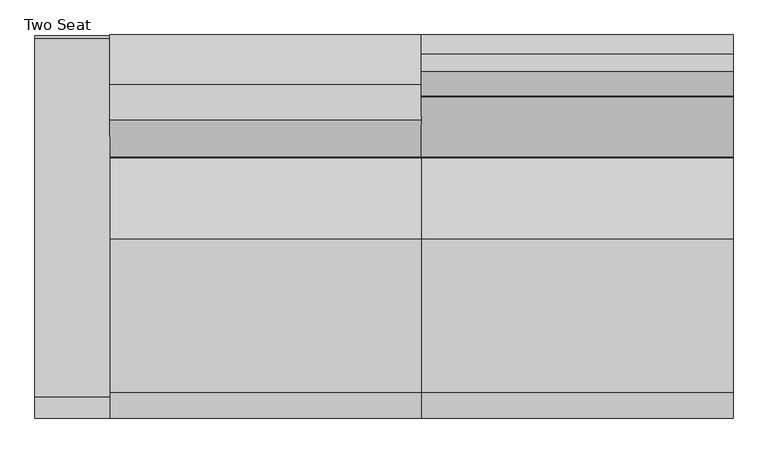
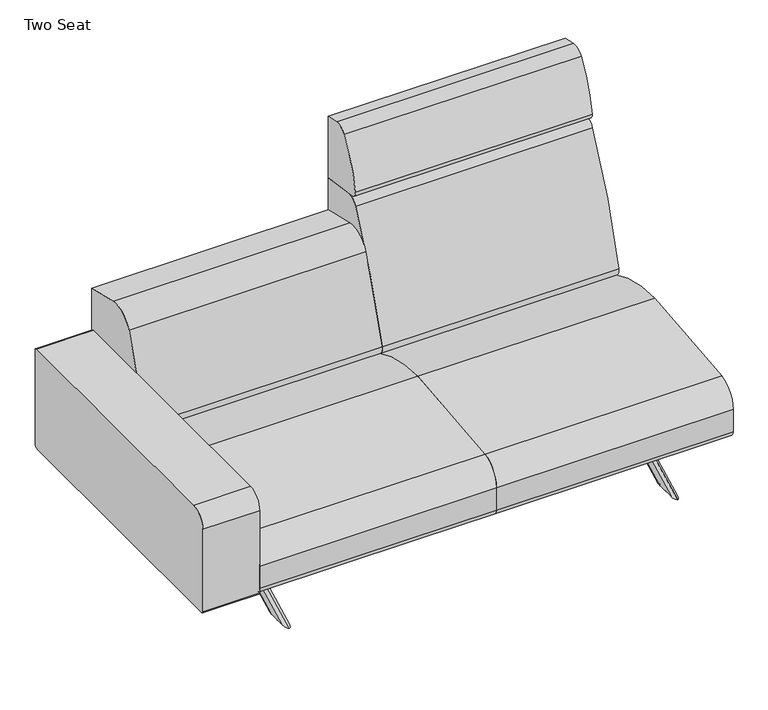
"""IFC4 building model written with IfcOpenShell, lengths in millimetres: furniture geometry, Coalesse_AM_Seating_LoungeChair_Sistema_LegBase_TwoSeat : Two Seat."""

from ifc_helpers import new_model, si_unit, point, frame, frame_2d, origin, origin_with_axes, place, context, project, spatial, polyline, circle_curve, ellipse_curve, trimmed, segment, composite_curve, outline, extrude, source, transform, mapped, element, save
from ifc_brep_helpers import plane_surface, cylinder_surface, advanced_brep


def two_seat_acb1e659(model_context):
    return source(origin(), model_context, "Body", "SolidModel", [
        extrude(outline(composite_curve([segment(trimmed(circle_curve(frame_2d((201.422, 966.5259944)), 3.048), [point((204.47, 966.5259944))], [point((201.422, 963.4779944))], False, "CARTESIAN"), True, "CONTINUOUS"), segment(polyline([(201.422, 963.4779944), (157.0399209, 963.4779944)]), True, "CONTINUOUS"), segment(trimmed(circle_curve(frame_2d((157.0399209, 966.5259944)), 3.048), [point((157.0399209, 963.4779944))], [point((153.9919209, 966.5259944))], False, "CARTESIAN"), True, "CONTINUOUS"), segment(polyline([(153.9919209, 966.5259944), (153.9919209, 1011.2135501)]), True, "CONTINUOUS"), segment(trimmed(circle_curve(frame_2d((157.056462, 1011.2135501)), 3.0645412), [point((153.9919209, 1011.2135501))], [point((157.056462, 1014.2780913))], False, "CARTESIAN"), True, "CONTINUOUS"), segment(polyline([(157.056462, 1014.2780913), (201.422, 1014.2780913)]), True, "CONTINUOUS"), segment(trimmed(circle_curve(frame_2d((201.422, 1011.2300913)), 3.048), [point((201.422, 1014.2780913))], [point((204.47, 1011.2300913))], False, "CARTESIAN"), True, "CONTINUOUS"), segment(polyline([(204.47, 1011.2300913), (204.47, 966.5259944)]), True, "CONTINUOUS")], self_intersect=False)), frame((0.0, -222.3519802, 0.0), z_axis=(0.0, 1.0, 0.0), x_axis=(0.0, 0.0, 1.0)), (0.0, 0.0, 1.0), 444.7039604),
        extrude(outline(composite_curve([segment(trimmed(circle_curve(frame_2d((989.1765227, 335.9943389)), 6.096), [point((995.2725227, 335.9943389))], [point((983.0805227, 335.9943389))], False, "CARTESIAN"), True, "CONTINUOUS"), segment(trimmed(circle_curve(frame_2d((989.1765227, 335.9943389)), 6.096), [point((983.0805227, 335.9943389))], [point((995.2725227, 335.9943389))], False, "CARTESIAN"), True, "CONTINUOUS")], self_intersect=False)), origin_with_axes(), (0.0, 0.0, 1.0), 4.3662291),
        extrude(outline(composite_curve([segment(trimmed(circle_curve(frame_2d((989.1765227, 303.6385124)), 6.096), [point((995.2725227, 303.6385124))], [point((983.0805227, 303.6385124))], False, "CARTESIAN"), True, "CONTINUOUS"), segment(trimmed(circle_curve(frame_2d((989.1765227, 303.6385124)), 6.096), [point((983.0805227, 303.6385124))], [point((995.2725227, 303.6385124))], False, "CARTESIAN"), True, "CONTINUOUS")], self_intersect=False)), origin_with_axes(), (0.0, 0.0, 1.0), 4.3662291),
        extrude(outline(composite_curve([segment(trimmed(circle_curve(frame_2d((989.1765227, -335.9943389)), 6.096), [point((995.2725227, -335.9943389))], [point((983.0805227, -335.9943389))], False, "CARTESIAN"), True, "CONTINUOUS"), segment(trimmed(circle_curve(frame_2d((989.1765227, -335.9943389)), 6.096), [point((983.0805227, -335.9943389))], [point((995.2725227, -335.9943389))], False, "CARTESIAN"), True, "CONTINUOUS")], self_intersect=False)), origin_with_axes(), (0.0, 0.0, 1.0), 4.3662291),
        extrude(outline(composite_curve([segment(trimmed(circle_curve(frame_2d((989.1765227, -303.6385124)), 6.096), [point((995.2725227, -303.6385124))], [point((983.0805227, -303.6385124))], False, "CARTESIAN"), True, "CONTINUOUS"), segment(trimmed(circle_curve(frame_2d((989.1765227, -303.6385124)), 6.096), [point((983.0805227, -303.6385124))], [point((995.2725227, -303.6385124))], False, "CARTESIAN"), True, "CONTINUOUS")], self_intersect=False)), origin_with_axes(), (0.0, 0.0, 1.0), 4.3662291),
        advanced_brep(
        [(997.3356355, 0.0, 159.4180284), (997.3356355, -304.3062902, 4.3662291), (989.1765227, -280.9464714, 4.3662291), (989.1765227, 0.0, 147.5156063), (980.3404671, -304.3062902, 4.3662291), (980.3404671, 0.0, 159.4180284), (980.3404671, -369.5911772, 4.3662291), (980.3404671, 0.0, 192.6823398), (980.3404671, 369.5911772, 4.3662291), (980.3404671, 304.3062902, 4.3662291), (989.1765227, -391.9658314, 4.3662291), (989.1765227, 0.0, 204.0827956), (997.3356355, -369.5911772, 4.3662291), (997.3356355, 0.0, 192.6823398), (997.3356355, 304.3062902, 4.3662291), (997.3356355, 369.5911772, 4.3662291), (989.1765227, 280.9464714, 4.3662291), (989.1765227, 391.9658314, 4.3662291)],
        [
            (0, 1),
            (1, 2, ellipse_curve(frame((986.3638526, -304.3062902, 4.3662291), z_axis=(0.0, 0.0, 1.0), x_axis=(0.0, -0.9999999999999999, 0.0)), 24.1674283, 10.9717828)),
            (2, 3),
            (3, 0, ellipse_curve(frame((986.3638526, 0.0, 159.4180284), z_axis=(0.0, -0.9999999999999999, 0.0), x_axis=(0.0, 0.0, -1.0)), 12.3139198, 10.9717828)),
            (2, 4, ellipse_curve(frame((991.1226981, -304.3062902, 4.3662291), z_axis=(0.0, 0.0, 1.0), x_axis=(0.0, -0.9999999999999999, 0.0)), 23.7499044, 10.782231)),
            (4, 5),
            (5, 3, ellipse_curve(frame((991.1226981, 0.0, 159.4180284), z_axis=(0.0, -0.9999999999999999, 0.0), x_axis=(0.0, 0.0, -1.0)), 12.1011807, 10.782231)),
            (4, 6),
            (6, 7),
            (7, 8),
            (8, 9),
            (9, 5),
            (6, 10, ellipse_curve(frame((990.5972164, -369.5911772, 4.3662291), z_axis=(0.0, 0.0, 1.0), x_axis=(0.0, -0.9999999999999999, 0.0)), 22.5924315, 10.2567493)),
            (10, 11),
            (11, 7, ellipse_curve(frame((990.5972164, 0.0, 192.6823398), z_axis=(0.0, -0.9999999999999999, 0.0), x_axis=(0.0, 0.0, -1.0)), 11.5114188, 10.2567493)),
            (10, 12, ellipse_curve(frame((986.9329323, -369.5911772, 4.3662291), z_axis=(0.0, 0.0, 1.0), x_axis=(0.0, -0.9999999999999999, 0.0)), 22.9139226, 10.4027032)),
            (12, 13),
            (13, 11, ellipse_curve(frame((986.9329323, 0.0, 192.6823398), z_axis=(0.0, -0.9999999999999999, 0.0), x_axis=(0.0, 0.0, -1.0)), 11.6752267, 10.4027032)),
            (0, 14),
            (14, 15),
            (15, 13),
            (12, 1),
            (3, 16),
            (16, 14, ellipse_curve(frame((986.3638526, 304.3062902, 4.3662291), z_axis=(0.0, 0.0, 1.0), x_axis=(0.0, -1.0, 0.0)), 24.1674283, 10.9717828)),
            (9, 16, ellipse_curve(frame((991.1226981, 304.3062902, 4.3662291), z_axis=(0.0, 0.0, 1.0), x_axis=(0.0, -1.0, 0.0)), 23.7499044, 10.782231)),
            (11, 17),
            (17, 8, ellipse_curve(frame((990.5972164, 369.5911772, 4.3662291), z_axis=(0.0, 0.0, 1.0), x_axis=(0.0, -1.0, 0.0)), 22.5924315, 10.2567493)),
            (15, 17, ellipse_curve(frame((986.9329323, 369.5911772, 4.3662291), z_axis=(0.0, 0.0, 1.0), x_axis=(0.0, -1.0, 0.0)), 22.9139226, 10.4027032)),
        ],
        [
            cylinder_surface(frame((986.3638526, -406.1496224, -47.5255405), z_axis=(0.0, -0.891006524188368, -0.45399049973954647), x_axis=(-1.0, 0.0, 0.0)), 10.9717828),
            cylinder_surface(frame((991.1226981, -406.1496224, -47.5255405), z_axis=(0.0, -0.891006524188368, -0.45399049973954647), x_axis=(-1.0, 0.0, 0.0)), 10.782231),
            plane_surface(frame((980.3404671, -406.1496224, -47.5255405), z_axis=(-1.0, 0.0, 0.0), x_axis=(0.0, 0.8910065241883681, 0.45399049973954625))),
            cylinder_surface(frame((990.5972164, -419.605319, -21.1172489), z_axis=(0.0, -0.891006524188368, -0.45399049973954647), x_axis=(-1.0, 0.0, 0.0)), 10.2567493),
            cylinder_surface(frame((986.9329323, -419.605319, -21.1172489), z_axis=(0.0, -0.891006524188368, -0.45399049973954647), x_axis=(-1.0, 0.0, 0.0)), 10.4027032),
            plane_surface(frame((997.3356355, -419.605319, -21.1172489), z_axis=(1.0000000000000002, 0.0, 0.0), x_axis=(0.0, 0.8910065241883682, 0.45399049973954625))),
            cylinder_surface(frame((986.3638526, 27.0708966, 145.6247177), z_axis=(0.0, -0.8910065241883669, 0.45399049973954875), x_axis=(-1.0, 0.0, 0.0)), 10.9717828),
            cylinder_surface(frame((991.1226981, 27.0708966, 145.6247177), z_axis=(0.0, -0.8910065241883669, 0.45399049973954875), x_axis=(-1.0, 0.0, 0.0)), 10.782231),
            cylinder_surface(frame((990.5972164, 40.5265933, 172.0330092), z_axis=(0.0, -0.8910065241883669, 0.45399049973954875), x_axis=(-1.0, 0.0, 0.0)), 10.2567493),
            cylinder_surface(frame((986.9329323, 40.5265933, 172.0330092), z_axis=(0.0, -0.8910065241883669, 0.45399049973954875), x_axis=(-1.0, 0.0, 0.0)), 10.4027032),
            plane_surface(frame((1293.9765227, 253.4374013, 4.3662291), z_axis=(0.0, 0.0, -1.0), x_axis=(-1.0, 0.0, 0.0))),
            plane_surface(frame((1293.9765227, -424.8336244, 4.3662291), z_axis=(0.0, 0.0, -1.0), x_axis=(-1.0, 0.0, 0.0))),
        ],
        [
            (0, [[1, 2, 3, 4]]),
            (1, [[-3, 5, 6, 7]]),
            (2, [[8, 9, 10, 11, 12, -6]]),
            (3, [[-9, 13, 14, 15]]),
            (4, [[-14, 16, 17, 18]]),
            (5, [[19, 20, 21, -17, 22, -1]]),
            (6, [[23, 24, -19, -4]]),
            (7, [[-12, 25, -23, -7]]),
            (8, [[26, 27, -10, -15]]),
            (9, [[-21, 28, -26, -18]]),
            (10, [[-27, -28, -20, -24, -25, -11]]),
            (11, [[-22, -16, -13, -8, -5, -2]]),
        ],
    ),
        extrude(outline(composite_curve([segment(polyline([(-461.2704381, 212.4103341), (-461.2704381, 487.0244726)]), True, "CONTINUOUS"), segment(trimmed(circle_curve(frame_2d((-410.4704381, 487.0244726)), 50.8), [point((-461.2704381, 487.0244726))], [point((-410.4704381, 537.8244726))], False, "CARTESIAN"), True, "CONTINUOUS"), segment(polyline([(-410.4704381, 537.8244726), (450.1139321, 537.8244726)]), True, "CONTINUOUS"), segment(trimmed(circle_curve(frame_2d((450.1139321, 530.2044726)), 7.62), [point((450.1139321, 537.8244726))], [point((457.7339321, 530.2044726))], False, "CARTESIAN"), True, "CONTINUOUS"), segment(polyline([(457.7339321, 530.2044726), (457.7339321, 217.4903341)]), True, "CONTINUOUS"), segment(trimmed(circle_curve(frame_2d((445.0339321, 217.4903341)), 12.7), [point((457.7339321, 217.4903341))], [point((445.0339321, 204.7903341))], False, "CARTESIAN"), True, "CONTINUOUS"), segment(polyline([(445.0339321, 204.7903341), (-453.6504381, 204.7903341)]), True, "CONTINUOUS"), segment(trimmed(circle_curve(frame_2d((-453.6504381, 212.4103341)), 7.62), [point((-453.6504381, 204.7903341))], [point((-461.2704381, 212.4103341))], False, "CARTESIAN"), True, "CONTINUOUS")], self_intersect=False)), frame((-554.3698424, 0.0, 0.0), z_axis=(1.0, 0.0, 0.0), x_axis=(0.0, 1.0, 0.0)), (0.0, 0.0, 1.0), 179.5663651),
        extrude(outline(composite_curve([segment(polyline([(459.4795619, 673.6041325), (459.4795619, 228.1929806)]), True, "CONTINUOUS"), segment(trimmed(circle_curve(frame_2d((191.495971, 228.1929806)), 267.983591), [point((459.4795619, 228.1929806))], [point((458.9860775, 211.937276))], False, "CARTESIAN"), True, "CONTINUOUS"), segment(polyline([(458.9860775, 211.937276), (177.4990556, 364.1028799)]), True, "CONTINUOUS"), segment(trimmed(circle_curve(frame_2d((189.5778307, 386.4470781)), 25.4), [point((177.4990556, 364.1028799))], [point((164.9600055, 392.7018911))], False, "CARTESIAN"), True, "CONTINUOUS"), segment(trimmed(circle_curve(frame_2d((1918.112812, -52.7331923)), 1808.8552115), [point((164.9600055, 392.7018911))], [point((254.1018253, 656.5090883))], False, "CARTESIAN"), True, "CONTINUOUS"), segment(trimmed(circle_curve(frame_2d((324.2001043, 626.6314831)), 76.2), [point((254.1018253, 656.5090883))], [point((341.3413746, 700.8784821))], False, "CARTESIAN"), True, "CONTINUOUS"), segment(polyline([(341.3413746, 700.8784821), (459.4795619, 673.6041325)]), True, "CONTINUOUS")], self_intersect=False)), frame((-374.8034773, 0.0, 0.0), z_axis=(1.0, 0.0, 0.0), x_axis=(0.0, 1.0, 0.0)), (0.0, 0.0, 1.0), 749.3),
        extrude(outline(composite_curve([segment(trimmed(circle_curve(frame_2d((-438.9184381, 226.822)), 22.352), [point((-438.9184381, 204.47))], [point((-461.2704381, 226.822))], False, "CARTESIAN"), True, "CONTINUOUS"), segment(polyline([(-461.2704381, 226.822), (-461.2704381, 301.4421993)]), True, "CONTINUOUS"), segment(trimmed(circle_curve(frame_2d((-385.0704381, 301.4421993)), 76.2), [point((-461.2704381, 301.4421993))], [point((-398.9277015, 376.3716077))], False, "CARTESIAN"), True, "CONTINUOUS"), segment(trimmed(circle_curve(frame_2d((2.2103559, -1792.6740646)), 2205.8265729), [point((-398.9277015, 376.3716077))], [point((-31.1968175, 412.8995185))], False, "CARTESIAN"), True, "CONTINUOUS"), segment(trimmed(circle_curve(frame_2d((-24.5128424, -28.3829182)), 441.333054), [point((-31.1968175, 412.8995185))], [point((184.5757008, 360.2774035))], False, "CARTESIAN"), True, "CONTINUOUS"), segment(polyline([(184.5757008, 360.2774035), (458.9860775, 211.937276)]), True, "CONTINUOUS"), segment(trimmed(circle_curve(frame_2d((442.3266309, 226.7871991)), 22.3171991), [point((458.9860775, 211.937276))], [point((442.3266309, 204.47))], False, "CARTESIAN"), True, "CONTINUOUS"), segment(polyline([(442.3266309, 204.47), (-438.9184381, 204.47)]), True, "CONTINUOUS")], self_intersect=False)), frame((-374.8034773, 0.0, 0.0), z_axis=(1.0, 0.0, 0.0), x_axis=(0.0, 1.0, 0.0)), (0.0, 0.0, 1.0), 749.3),
        extrude(outline(composite_curve([segment(polyline([(459.4795619, 985.4592709), (459.4795619, 780.845009), (327.9700683, 799.327463)]), True, "CONTINUOUS"), segment(trimmed(circle_curve(frame_2d((330.6213159, 818.1920697)), 19.05), [point((327.9700683, 799.327463))], [point((311.7521971, 820.8110119))], False, "CARTESIAN"), True, "CONTINUOUS"), segment(trimmed(circle_curve(frame_2d((679.5815991, 769.7580741)), 371.3554516), [point((311.7521971, 820.8110119))], [point((372.1246101, 978.0249014))], False, "CARTESIAN"), True, "CONTINUOUS"), segment(trimmed(circle_curve(frame_2d((405.8944569, 955.1497055)), 40.7881985), [point((372.1246101, 978.0249014))], [point((414.3748002, 995.046584))], False, "CARTESIAN"), True, "CONTINUOUS"), segment(polyline([(414.3748002, 995.046584), (459.4795619, 985.4592709)]), True, "CONTINUOUS")], self_intersect=False)), frame((374.4965227, 0.0, 0.0), z_axis=(1.0, 0.0, 0.0), x_axis=(0.0, 1.0, 0.0)), (0.0, 0.0, 1.0), 749.3),
        extrude(outline(composite_curve([segment(polyline([(459.4795619, 780.845009), (459.4795619, 228.1929806)]), True, "CONTINUOUS"), segment(trimmed(circle_curve(frame_2d((191.495971, 228.1929806)), 267.983591), [point((459.4795619, 228.1929806))], [point((458.9860775, 211.937276))], False, "CARTESIAN"), True, "CONTINUOUS"), segment(polyline([(458.9860775, 211.937276), (177.4990556, 364.1028799)]), True, "CONTINUOUS"), segment(trimmed(circle_curve(frame_2d((189.5778307, 386.4470781)), 25.4), [point((177.4990556, 364.1028799))], [point((164.9600055, 392.7018911))], False, "CARTESIAN"), True, "CONTINUOUS"), segment(trimmed(circle_curve(frame_2d((1918.112812, -52.7331923)), 1808.8552115), [point((164.9600055, 392.7018911))], [point((310.2880264, 776.0349508))], False, "CARTESIAN"), True, "CONTINUOUS"), segment(trimmed(circle_curve(frame_2d((344.1537133, 758.5785695)), 38.1), [point((310.2880264, 776.0349508))], [point((349.4562085, 796.3077829))], False, "CARTESIAN"), True, "CONTINUOUS"), segment(polyline([(349.4562085, 796.3077829), (459.4795619, 780.845009)]), True, "CONTINUOUS")], self_intersect=False)), frame((374.4965227, 0.0, 0.0), z_axis=(1.0, 0.0, 0.0), x_axis=(0.0, 1.0, 0.0)), (0.0, 0.0, 1.0), 749.3),
        extrude(outline(composite_curve([segment(trimmed(circle_curve(frame_2d((-438.9184381, 226.822)), 22.352), [point((-438.9184381, 204.47))], [point((-461.2704381, 226.822))], False, "CARTESIAN"), True, "CONTINUOUS"), segment(polyline([(-461.2704381, 226.822), (-461.2704381, 301.4421993)]), True, "CONTINUOUS"), segment(trimmed(circle_curve(frame_2d((-385.0704381, 301.4421993)), 76.2), [point((-461.2704381, 301.4421993))], [point((-398.9277015, 376.3716077))], False, "CARTESIAN"), True, "CONTINUOUS"), segment(trimmed(circle_curve(frame_2d((2.2103559, -1792.6740646)), 2205.8265729), [point((-398.9277015, 376.3716077))], [point((-31.1968175, 412.8995185))], False, "CARTESIAN"), True, "CONTINUOUS"), segment(trimmed(circle_curve(frame_2d((-24.5128424, -28.3829182)), 441.333054), [point((-31.1968175, 412.8995185))], [point((184.5757008, 360.2774035))], False, "CARTESIAN"), True, "CONTINUOUS"), segment(polyline([(184.5757008, 360.2774035), (458.9860775, 211.937276)]), True, "CONTINUOUS"), segment(trimmed(circle_curve(frame_2d((442.3266309, 226.7871991)), 22.3171991), [point((458.9860775, 211.937276))], [point((442.3266309, 204.47))], False, "CARTESIAN"), True, "CONTINUOUS"), segment(polyline([(442.3266309, 204.47), (-438.9184381, 204.47)]), True, "CONTINUOUS")], self_intersect=False)), frame((374.4965227, 0.0, 0.0), z_axis=(1.0, 0.0, 0.0), x_axis=(0.0, 1.0, 0.0)), (0.0, 0.0, 1.0), 749.3),
        extrude(outline(composite_curve([segment(polyline([(204.47, -217.532949), (204.47, -262.2370459)]), True, "CONTINUOUS"), segment(trimmed(circle_curve(frame_2d((201.422, -262.2370459)), 3.048), [point((204.47, -262.2370459))], [point((201.422, -265.2850459))], False, "CARTESIAN"), True, "CONTINUOUS"), segment(polyline([(201.422, -265.2850459), (157.056462, -265.2850459)]), True, "CONTINUOUS"), segment(trimmed(circle_curve(frame_2d((157.056462, -262.2205047)), 3.0645412), [point((157.056462, -265.2850459))], [point((153.9919209, -262.2205047))], False, "CARTESIAN"), True, "CONTINUOUS"), segment(polyline([(153.9919209, -262.2205047), (153.9919209, -217.532949)]), True, "CONTINUOUS"), segment(trimmed(circle_curve(frame_2d((157.0399209, -217.532949)), 3.048), [point((153.9919209, -217.532949))], [point((157.0399209, -214.484949))], False, "CARTESIAN"), True, "CONTINUOUS"), segment(polyline([(157.0399209, -214.484949), (201.422, -214.484949)]), True, "CONTINUOUS"), segment(trimmed(circle_curve(frame_2d((201.422, -217.532949)), 3.048), [point((201.422, -214.484949))], [point((204.47, -217.532949))], False, "CARTESIAN"), True, "CONTINUOUS")], self_intersect=False)), frame((0.0, -222.3519802, 0.0), z_axis=(0.0, 1.0, 0.0), x_axis=(0.0, 0.0, 1.0)), (0.0, 0.0, 1.0), 444.7039604),
        extrude(outline(composite_curve([segment(trimmed(circle_curve(frame_2d((-240.1834773, 335.9943389)), 6.096), [point((-246.2794773, 335.9943389))], [point((-234.0874773, 335.9943389))], False, "CARTESIAN"), True, "CONTINUOUS"), segment(trimmed(circle_curve(frame_2d((-240.1834773, 335.9943389)), 6.096), [point((-234.0874773, 335.9943389))], [point((-246.2794773, 335.9943389))], False, "CARTESIAN"), True, "CONTINUOUS")], self_intersect=False)), origin_with_axes(), (0.0, 0.0, 1.0), 4.3662291),
        extrude(outline(composite_curve([segment(trimmed(circle_curve(frame_2d((-240.1834773, 303.6385124)), 6.096), [point((-246.2794773, 303.6385124))], [point((-234.0874773, 303.6385124))], False, "CARTESIAN"), True, "CONTINUOUS"), segment(trimmed(circle_curve(frame_2d((-240.1834773, 303.6385124)), 6.096), [point((-234.0874773, 303.6385124))], [point((-246.2794773, 303.6385124))], False, "CARTESIAN"), True, "CONTINUOUS")], self_intersect=False)), origin_with_axes(), (0.0, 0.0, 1.0), 4.3662291),
        extrude(outline(composite_curve([segment(trimmed(circle_curve(frame_2d((-240.1834773, -335.9943389)), 6.096), [point((-246.2794773, -335.9943389))], [point((-234.0874773, -335.9943389))], False, "CARTESIAN"), True, "CONTINUOUS"), segment(trimmed(circle_curve(frame_2d((-240.1834773, -335.9943389)), 6.096), [point((-234.0874773, -335.9943389))], [point((-246.2794773, -335.9943389))], False, "CARTESIAN"), True, "CONTINUOUS")], self_intersect=False)), origin_with_axes(), (0.0, 0.0, 1.0), 4.3662291),
        extrude(outline(composite_curve([segment(trimmed(circle_curve(frame_2d((-240.1834773, -303.6385124)), 6.096), [point((-246.2794773, -303.6385124))], [point((-234.0874773, -303.6385124))], False, "CARTESIAN"), True, "CONTINUOUS"), segment(trimmed(circle_curve(frame_2d((-240.1834773, -303.6385124)), 6.096), [point((-234.0874773, -303.6385124))], [point((-246.2794773, -303.6385124))], False, "CARTESIAN"), True, "CONTINUOUS")], self_intersect=False)), origin_with_axes(), (0.0, 0.0, 1.0), 4.3662291),
        advanced_brep(
        [(-248.3425901, 0.0, 159.4180284), (-240.1834773, 0.0, 147.5156063), (-240.1834773, -280.9464714, 4.3662291), (-248.3425901, -304.3062902, 4.3662291), (-231.3474218, 0.0, 159.4180284), (-231.3474218, -304.3062902, 4.3662291), (-231.3474218, 304.3062902, 4.3662291), (-231.3474218, 369.5911772, 4.3662291), (-231.3474218, 0.0, 192.6823398), (-231.3474218, -369.5911772, 4.3662291), (-240.1834773, 0.0, 204.0827956), (-240.1834773, -391.9658314, 4.3662291), (-248.3425901, 0.0, 192.6823398), (-248.3425901, -369.5911772, 4.3662291), (-248.3425901, 369.5911772, 4.3662291), (-248.3425901, 304.3062902, 4.3662291), (-240.1834773, 280.9464714, 4.3662291), (-240.1834773, 391.9658314, 4.3662291)],
        [
            (0, 1, ellipse_curve(frame((-237.3708073, 0.0, 159.4180284), z_axis=(0.0, -0.9999999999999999, 0.0), x_axis=(0.0, 0.0, -1.0)), 12.3139198, 10.9717828)),
            (1, 2),
            (2, 3, ellipse_curve(frame((-237.3708073, -304.3062902, 4.3662291), z_axis=(0.0, 0.0, 1.0), x_axis=(0.0, -0.9999999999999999, 0.0)), 24.1674283, 10.9717828)),
            (3, 0),
            (1, 4, ellipse_curve(frame((-242.1296527, 0.0, 159.4180284), z_axis=(0.0, -0.9999999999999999, 0.0), x_axis=(0.0, 0.0, -1.0)), 12.1011807, 10.782231)),
            (4, 5),
            (5, 2, ellipse_curve(frame((-242.1296527, -304.3062902, 4.3662291), z_axis=(0.0, 0.0, 1.0), x_axis=(0.0, -0.9999999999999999, 0.0)), 23.7499044, 10.782231)),
            (4, 6),
            (6, 7),
            (7, 8),
            (8, 9),
            (9, 5),
            (8, 10, ellipse_curve(frame((-241.604171, 0.0, 192.6823398), z_axis=(0.0, -0.9999999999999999, 0.0), x_axis=(0.0, 0.0, -1.0)), 11.5114188, 10.2567493)),
            (10, 11),
            (11, 9, ellipse_curve(frame((-241.604171, -369.5911772, 4.3662291), z_axis=(0.0, 0.0, 1.0), x_axis=(0.0, -0.9999999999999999, 0.0)), 22.5924315, 10.2567493)),
            (10, 12, ellipse_curve(frame((-237.9398869, 0.0, 192.6823398), z_axis=(0.0, -0.9999999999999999, 0.0), x_axis=(0.0, 0.0, -1.0)), 11.6752267, 10.4027032)),
            (12, 13),
            (13, 11, ellipse_curve(frame((-237.9398869, -369.5911772, 4.3662291), z_axis=(0.0, 0.0, 1.0), x_axis=(0.0, -0.9999999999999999, 0.0)), 22.9139226, 10.4027032)),
            (3, 13),
            (12, 14),
            (14, 15),
            (15, 0),
            (15, 16, ellipse_curve(frame((-237.3708073, 304.3062902, 4.3662291), z_axis=(0.0, 0.0, 1.0), x_axis=(0.0, -1.0, 0.0)), 24.1674283, 10.9717828)),
            (16, 1),
            (16, 6, ellipse_curve(frame((-242.1296527, 304.3062902, 4.3662291), z_axis=(0.0, 0.0, 1.0), x_axis=(0.0, -1.0, 0.0)), 23.7499044, 10.782231)),
            (7, 17, ellipse_curve(frame((-241.604171, 369.5911772, 4.3662291), z_axis=(0.0, 0.0, 1.0), x_axis=(0.0, -1.0, 0.0)), 22.5924315, 10.2567493)),
            (17, 10),
            (17, 14, ellipse_curve(frame((-237.9398869, 369.5911772, 4.3662291), z_axis=(0.0, 0.0, 1.0), x_axis=(0.0, -1.0, 0.0)), 22.9139226, 10.4027032)),
        ],
        [
            cylinder_surface(frame((-237.3708073, -406.1496224, -47.5255405), z_axis=(0.0, -0.891006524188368, -0.45399049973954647), x_axis=(1.0, 0.0, 0.0)), 10.9717828),
            cylinder_surface(frame((-242.1296527, -406.1496224, -47.5255405), z_axis=(0.0, -0.891006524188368, -0.45399049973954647), x_axis=(1.0, 0.0, 0.0)), 10.782231),
            plane_surface(frame((-231.3474218, -406.1496224, -47.5255405), z_axis=(1.0, 0.0, 0.0), x_axis=(0.0, 0.8910065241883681, 0.45399049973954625))),
            cylinder_surface(frame((-241.604171, -419.605319, -21.1172489), z_axis=(0.0, -0.891006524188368, -0.45399049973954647), x_axis=(1.0, 0.0, 0.0)), 10.2567493),
            cylinder_surface(frame((-237.9398869, -419.605319, -21.1172489), z_axis=(0.0, -0.891006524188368, -0.45399049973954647), x_axis=(1.0, 0.0, 0.0)), 10.4027032),
            plane_surface(frame((-248.3425901, -419.605319, -21.1172489), z_axis=(-1.0000000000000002, 0.0, 0.0), x_axis=(0.0, 0.8910065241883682, 0.45399049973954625))),
            cylinder_surface(frame((-237.3708073, 27.0708966, 145.6247177), z_axis=(0.0, -0.8910065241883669, 0.45399049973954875), x_axis=(1.0, 0.0, 0.0)), 10.9717828),
            cylinder_surface(frame((-242.1296527, 27.0708966, 145.6247177), z_axis=(0.0, -0.8910065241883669, 0.45399049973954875), x_axis=(1.0, 0.0, 0.0)), 10.782231),
            cylinder_surface(frame((-241.604171, 40.5265933, 172.0330092), z_axis=(0.0, -0.8910065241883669, 0.45399049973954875), x_axis=(1.0, 0.0, 0.0)), 10.2567493),
            cylinder_surface(frame((-237.9398869, 40.5265933, 172.0330092), z_axis=(0.0, -0.8910065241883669, 0.45399049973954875), x_axis=(1.0, 0.0, 0.0)), 10.4027032),
            plane_surface(frame((-544.9834773, 253.4374013, 4.3662291), z_axis=(0.0, 0.0, -1.0), x_axis=(1.0, 0.0, 0.0))),
            plane_surface(frame((-544.9834773, -424.8336244, 4.3662291), z_axis=(0.0, 0.0, -1.0), x_axis=(1.0, 0.0, 0.0))),
        ],
        [
            (0, [[1, 2, 3, 4]]),
            (1, [[5, 6, 7, -2]]),
            (2, [[-6, 8, 9, 10, 11, 12]]),
            (3, [[13, 14, 15, -11]]),
            (4, [[16, 17, 18, -14]]),
            (5, [[-4, 19, -17, 20, 21, 22]]),
            (6, [[-1, -22, 23, 24]]),
            (7, [[-5, -24, 25, -8]]),
            (8, [[-13, -10, 26, 27]]),
            (9, [[-16, -27, 28, -20]]),
            (10, [[-9, -25, -23, -21, -28, -26]]),
            (11, [[-3, -7, -12, -15, -18, -19]]),
        ],
    ),
    ])


if __name__ == "__main__":
    model = new_model("IFC4")
    model_context = context("Model", 3, world=origin())
    ifc_project = project(units=[si_unit("LENGTHUNIT", "METRE", prefix="MILLI")], contexts=[model_context])
    site = spatial("IfcSite", under=ifc_project)
    building = spatial("IfcBuilding", under=site)
    placement = place(None, origin())
    two_seat_shape = two_seat_acb1e659(model_context)
    element("IfcFurniture", 1, ObjectType="Coalesse_AM_Seating_LoungeChair_Sistema_LegBase_TwoSeat : Two Seat", at=placement, inside=building, context=model_context, shape_type="MappedRepresentation", body=[
        mapped(two_seat_shape, transform((0.0, 0.0, 0.0), x_axis=(1.0, 0.0, 0.0), y_axis=(0.0, 1.0, 0.0), z_axis=(0.0, 0.0, 1.0))),
    ])
    save(model, "model.ifc")
